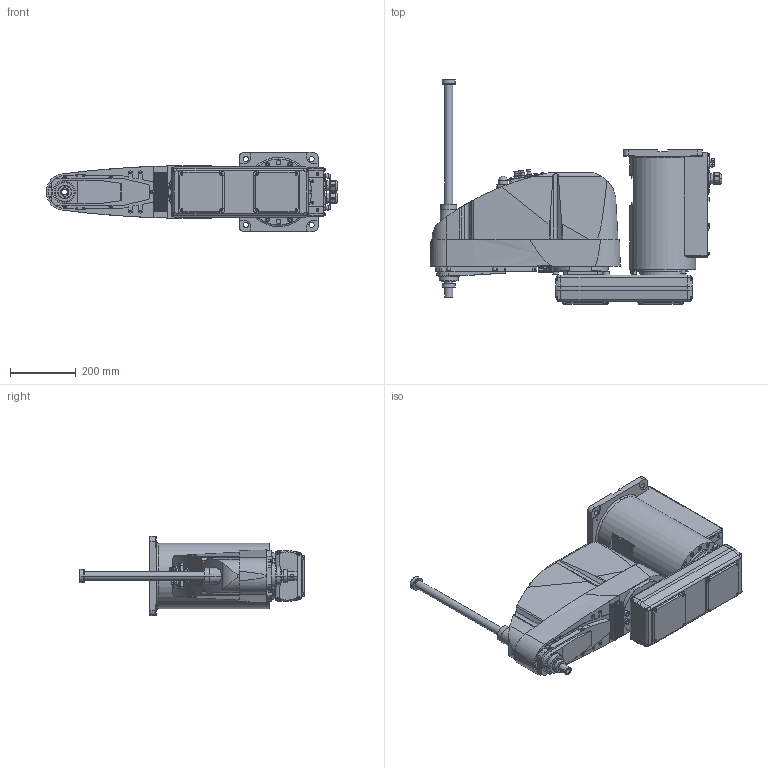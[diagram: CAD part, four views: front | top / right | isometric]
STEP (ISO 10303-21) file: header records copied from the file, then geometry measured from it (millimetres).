
FILE_DESCRIPTION( ( '' ), '1' );
FILE_NAME( '//expscmdclustefs.cadenas.external/client_exchange/iodir/jobs/output/wkb51512259_no0/STEP/G10_654SR_2_03.stp', '2012-11-22T15:31:28', ( '' ), ( '' ), ' ', ' ', ' ' );
FILE_SCHEMA( ( 'CONFIG_CONTROL_DESIGN' ) );
Length unit declared in the file: millimetre
Products named in the file (4): 1; 2; 3; 4
Bounding box: 884.5 x 681.5 x 240 mm (x, y, z)
Volume: 38194654.3 mm3; surface area: 1369476.8 mm2
Topology: 4 solids, 6 shells, 1935 faces, 4739 edges, 3078 vertices
Faces by surface type: plane 1091, cylinder 620, cone 196, torus 27, sphere 1
Entity records: 58315 total; most frequent: CARTESIAN_POINT 11295, DIRECTION 10011, ORIENTED_EDGE 9454, EDGE_CURVE 4727, AXIS2_PLACEMENT_3D 3468, VERTEX_POINT 3078, LINE 3075, VECTOR 3075
